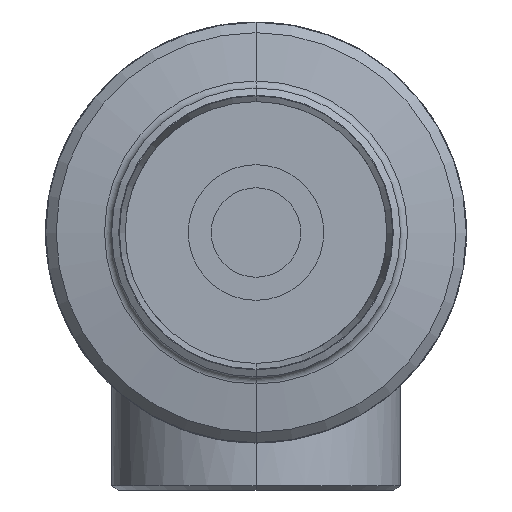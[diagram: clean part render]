
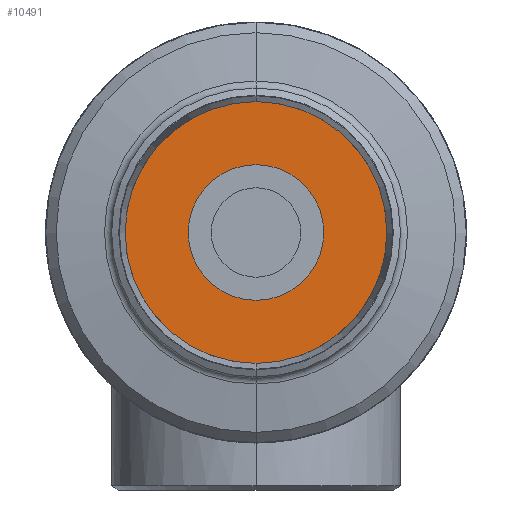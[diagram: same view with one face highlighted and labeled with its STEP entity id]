
A CAD part, front view. The second image highlights one B-rep face of the part: STEP entity #10491.
In plain terms, the highlighted planar face has unit normal (0, -1, 0) as drawn and (0, 0, 1) by its records, which use the part's own axes.
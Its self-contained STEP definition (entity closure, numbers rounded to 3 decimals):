
#223 = CIRCLE ( 'NONE', #224, 85. ) ;
#224 = AXIS2_PLACEMENT_3D ( 'NONE', #225, #226, #227 ) ;
#225 = CARTESIAN_POINT ( 'NONE',  ( 0., 0., 16. ) ) ;
#226 = DIRECTION ( 'NONE',  ( 0., 0., 1. ) ) ;
#227 = DIRECTION ( 'NONE',  ( 1., 0., 0. ) ) ;
#1211 = CARTESIAN_POINT ( 'NONE',  ( -39.5, 0., 16. ) ) ;
#2437 = CIRCLE ( 'NONE', #2438, 85. ) ;
#2438 = AXIS2_PLACEMENT_3D ( 'NONE', #2439, #2440, #2441 ) ;
#2439 = CARTESIAN_POINT ( 'NONE',  ( 0., 0., 16. ) ) ;
#2440 = DIRECTION ( 'NONE',  ( 0., 0., 1. ) ) ;
#2441 = DIRECTION ( 'NONE',  ( 1., 0., 0. ) ) ;
#3426 = FACE_OUTER_BOUND ( 'NONE', #4772, .T. ) ;
#3427 = FACE_BOUND ( 'NONE', #4598, .T. ) ;
#3428 = PLANE ( 'NONE',  #3429 ) ;
#3429 = AXIS2_PLACEMENT_3D ( 'NONE', #3430, #3431, #3432 ) ;
#3430 = CARTESIAN_POINT ( 'NONE',  ( 0., 0., 16. ) ) ;
#3431 = DIRECTION ( 'NONE',  ( 0., 0., 1. ) ) ;
#3432 = DIRECTION ( 'NONE',  ( 1., 0., 0. ) ) ;
#3513 = ORIENTED_EDGE ( 'NONE', *, *, #5782, .F. ) ;
#4017 = EDGE_CURVE ( 'NONE', #8616, #6596, #11551, .T. ) ;
#4380 = ORIENTED_EDGE ( 'NONE', *, *, #4017, .F. ) ;
#4598 = EDGE_LOOP ( 'NONE', ( #4380, #3513 ) ) ;
#4627 = ORIENTED_EDGE ( 'NONE', *, *, #12899, .T. ) ;
#4685 = EDGE_CURVE ( 'NONE', #12456, #12678, #2437, .T. ) ;
#4723 = ORIENTED_EDGE ( 'NONE', *, *, #4685, .T. ) ;
#4772 = EDGE_LOOP ( 'NONE', ( #4723, #4627 ) ) ;
#5782 = EDGE_CURVE ( 'NONE', #6596, #8616, #7553, .T. ) ;
#6596 = VERTEX_POINT ( 'NONE', #9185 ) ;
#7553 = CIRCLE ( 'NONE', #7554, 39.5 ) ;
#7554 = AXIS2_PLACEMENT_3D ( 'NONE', #7559, #7560, #7561 ) ;
#7559 = CARTESIAN_POINT ( 'NONE',  ( 0., 0., 16. ) ) ;
#7560 = DIRECTION ( 'NONE',  ( 0., 0., 1. ) ) ;
#7561 = DIRECTION ( 'NONE',  ( 1., 0., 0. ) ) ;
#8616 = VERTEX_POINT ( 'NONE', #1211 ) ;
#9185 = CARTESIAN_POINT ( 'NONE',  ( 39.5, 0., 16. ) ) ;
#10491 = ADVANCED_FACE ( 'NONE', ( #3426, #3427 ), #3428, .T. ) ;
#11551 = CIRCLE ( 'NONE', #11552, 39.5 ) ;
#11552 = AXIS2_PLACEMENT_3D ( 'NONE', #11553, #11554, #11555 ) ;
#11553 = CARTESIAN_POINT ( 'NONE',  ( 0., 0., 16. ) ) ;
#11554 = DIRECTION ( 'NONE',  ( 0., 0., 1. ) ) ;
#11555 = DIRECTION ( 'NONE',  ( 1., 0., 0. ) ) ;
#11674 = CARTESIAN_POINT ( 'NONE',  ( -85., 0., 16. ) ) ;
#11982 = CARTESIAN_POINT ( 'NONE',  ( 85., 0., 16. ) ) ;
#12456 = VERTEX_POINT ( 'NONE', #11674 ) ;
#12678 = VERTEX_POINT ( 'NONE', #11982 ) ;
#12899 = EDGE_CURVE ( 'NONE', #12678, #12456, #223, .T. ) ;
